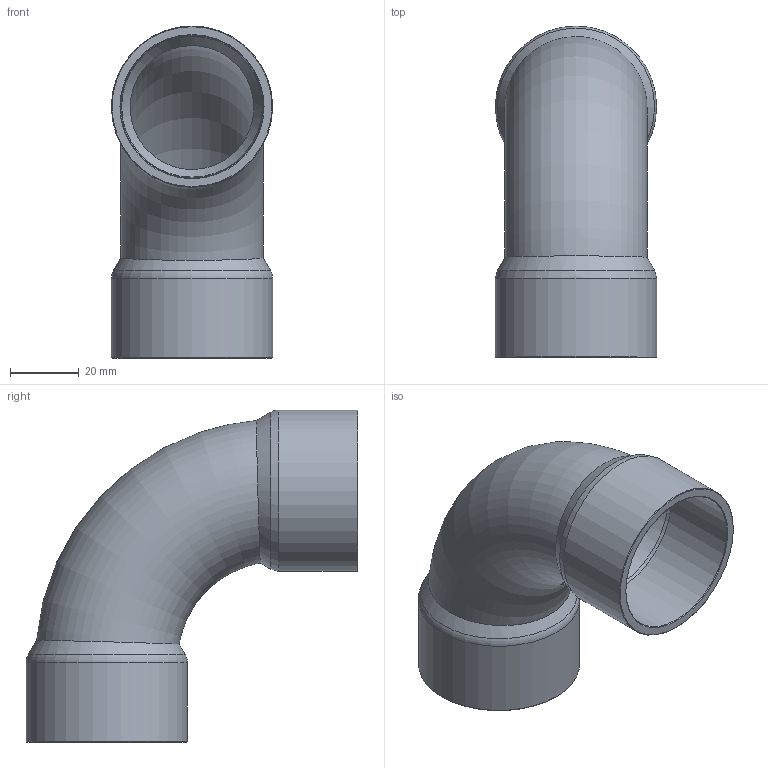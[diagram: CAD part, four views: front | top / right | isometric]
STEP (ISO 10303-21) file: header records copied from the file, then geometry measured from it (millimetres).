
FILE_DESCRIPTION((''),'2;1');
FILE_NAME('G:\SANHA-Ternat\Technik\Management\Bouwmaten + markeringen\z-maattekeningen 3D\29000s\29002A158_3d.stp','2017-07-26T09:01:58',('vdvijverd'),(''),'Autodesk Inventor 2009','Autodesk Inventor 2009','');
FILE_SCHEMA(('AUTOMOTIVE_DESIGN { 1 0 10303 214 1 1 1 1 }'));
Length unit declared in the file: millimetre
Products named in the file (1): 29002A158_3d
Bounding box: 46.85 x 96.43 x 96.43 mm (x, y, z)
Volume: 43781.6 mm3; surface area: 33118.6 mm2
Topology: 1 solids, 1 shells, 20 faces, 38 edges, 20 vertices
Faces by surface type: bspline 8, cone 6, torus 3, cylinder 2, plane 1
Full cylindrical faces by diameter (mm): 41.455 x1, 46.855 x1
Entity records: 746 total; most frequent: CARTESIAN_POINT 416, DIRECTION 58, ORIENTED_EDGE 40, EDGE_LOOP 40, AXIS2_PLACEMENT_3D 29, VERTEX_POINT 20, EDGE_CURVE 20, FACE_OUTER_BOUND 20
